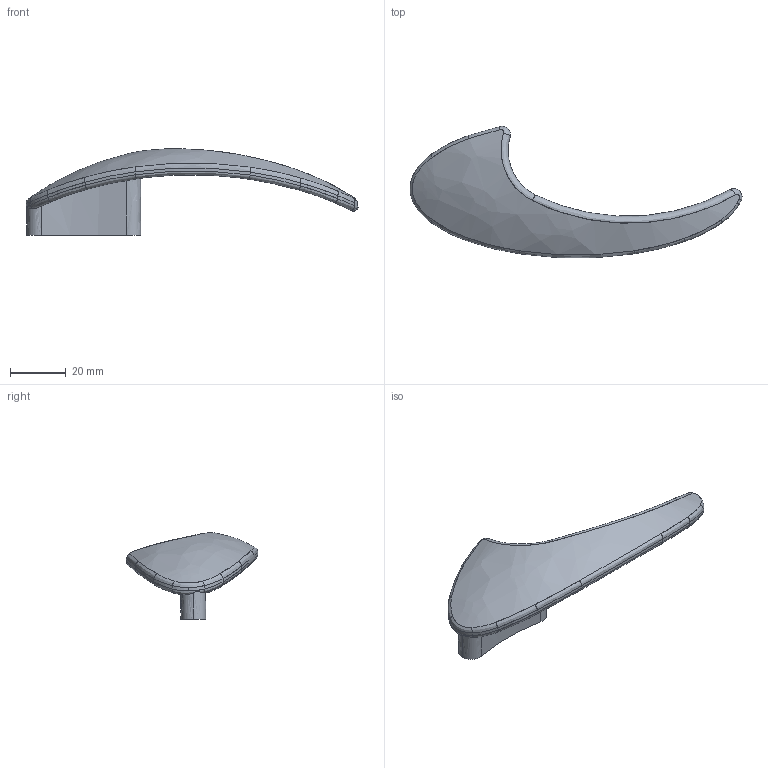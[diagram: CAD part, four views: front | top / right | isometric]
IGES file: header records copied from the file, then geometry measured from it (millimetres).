
Start section: C
Global section: file name: 8182-120.igs; native system: By Siemens PLM Incorporated; preprocessor: XPlus GENERIC/IGES 16.0.42; author: Author; organization: Title; date: 20231119.095443; units: millimetre
Bounding box: 119.41 x 47.21 x 31.12 mm (x, y, z)
Surface area: 9402.6 mm2 (no closed solid volume)
Topology: 0 solids, 0 shells, 69 faces, 326 edges, 326 vertices
Faces by surface type: bspline 69
